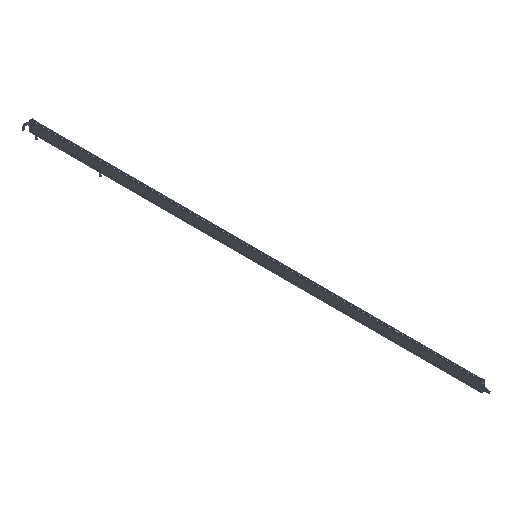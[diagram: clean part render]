
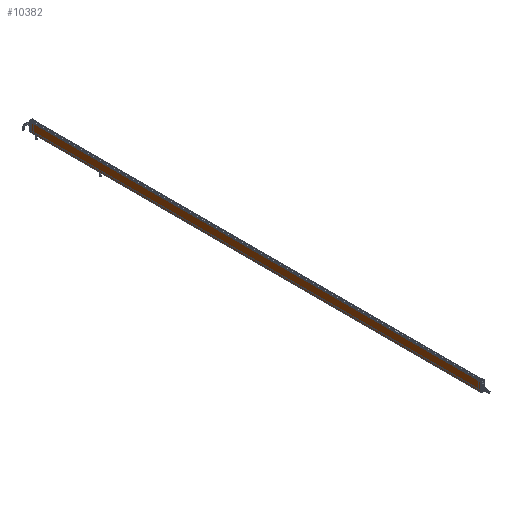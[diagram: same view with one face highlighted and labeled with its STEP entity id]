
A CAD part, isometric view. The second image highlights one B-rep face of the part: STEP entity #10382.
In plain terms, the highlighted planar face has unit normal (-1, 0, 0).
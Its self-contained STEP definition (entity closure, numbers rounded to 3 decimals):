
#47 = DIRECTION ( 'NONE',  ( 0., -1., 0. ) ) ;
#203 = CARTESIAN_POINT ( 'NONE',  ( -9., 0., 28.5 ) ) ;
#258 = CARTESIAN_POINT ( 'NONE',  ( -9., 1405., 28.5 ) ) ;
#422 = CARTESIAN_POINT ( 'NONE',  ( -9., 1405., 28.5 ) ) ;
#492 = PLANE ( 'NONE',  #4721 ) ;
#873 = FACE_OUTER_BOUND ( 'NONE', #10410, .T. ) ;
#1876 = ORIENTED_EDGE ( 'NONE', *, *, #5574, .T. ) ;
#2615 = CARTESIAN_POINT ( 'NONE',  ( -9., 1405., 0.5 ) ) ;
#3219 = CARTESIAN_POINT ( 'NONE',  ( -9., 1405., 28.5 ) ) ;
#3768 = LINE ( 'NONE', #18530, #16460 ) ;
#3835 = EDGE_CURVE ( 'NONE', #11933, #5432, #8360, .T. ) ;
#4117 = EDGE_CURVE ( 'NONE', #13457, #19313, #20286, .T. ) ;
#4241 = DIRECTION ( 'NONE',  ( 0., 0., -1. ) ) ;
#4721 = AXIS2_PLACEMENT_3D ( 'NONE', #422, #11657, #13276 ) ;
#5255 = EDGE_CURVE ( 'NONE', #11933, #13457, #10246, .T. ) ;
#5432 = VERTEX_POINT ( 'NONE', #2615 ) ;
#5574 = EDGE_CURVE ( 'NONE', #5432, #19313, #3768, .T. ) ;
#5988 = CARTESIAN_POINT ( 'NONE',  ( -9., 1405., 28.5 ) ) ;
#7149 = VECTOR ( 'NONE', #4241, 1000. ) ;
#7405 = ORIENTED_EDGE ( 'NONE', *, *, #5255, .F. ) ;
#7818 = DIRECTION ( 'NONE',  ( 0., 0., -1. ) ) ;
#8360 = LINE ( 'NONE', #5988, #7149 ) ;
#8985 = DIRECTION ( 'NONE',  ( 0., -1., 0. ) ) ;
#10246 = LINE ( 'NONE', #258, #12510 ) ;
#10382 = ADVANCED_FACE ( 'NONE', ( #873 ), #492, .T. ) ;
#10410 = EDGE_LOOP ( 'NONE', ( #13627, #7405, #15877, #1876 ) ) ;
#11657 = DIRECTION ( 'NONE',  ( -1., 0., 0. ) ) ;
#11933 = VERTEX_POINT ( 'NONE', #3219 ) ;
#12510 = VECTOR ( 'NONE', #47, 1000. ) ;
#12576 = CARTESIAN_POINT ( 'NONE',  ( -9., 0., 28.5 ) ) ;
#13276 = DIRECTION ( 'NONE',  ( 0., -1., 0. ) ) ;
#13457 = VERTEX_POINT ( 'NONE', #203 ) ;
#13627 = ORIENTED_EDGE ( 'NONE', *, *, #4117, .F. ) ;
#15877 = ORIENTED_EDGE ( 'NONE', *, *, #3835, .T. ) ;
#16099 = VECTOR ( 'NONE', #7818, 1000. ) ;
#16460 = VECTOR ( 'NONE', #8985, 1000. ) ;
#16631 = CARTESIAN_POINT ( 'NONE',  ( -9., 0., 0.5 ) ) ;
#18530 = CARTESIAN_POINT ( 'NONE',  ( -9., 1405., 0.5 ) ) ;
#19313 = VERTEX_POINT ( 'NONE', #16631 ) ;
#20286 = LINE ( 'NONE', #12576, #16099 ) ;
